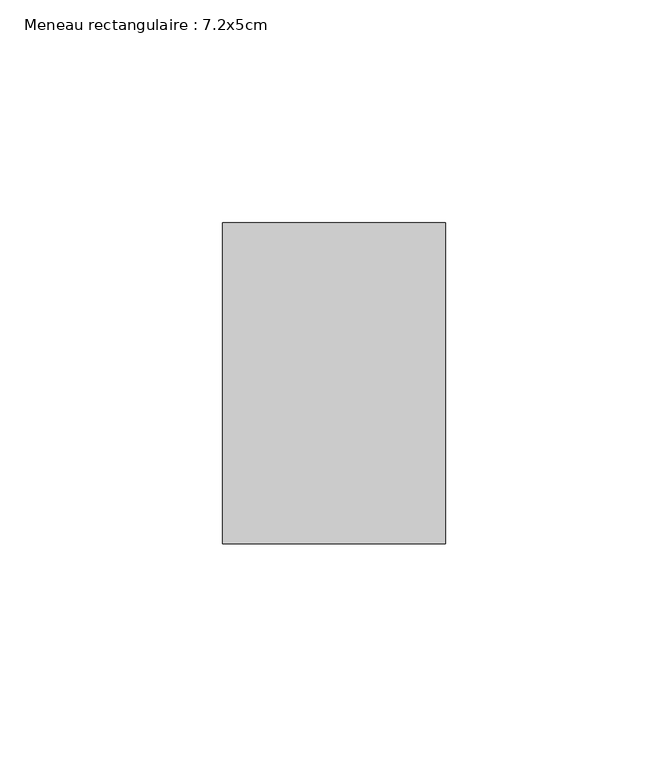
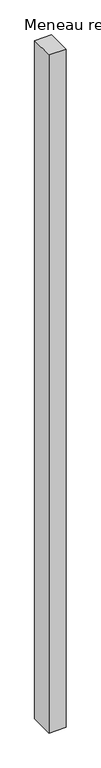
"""IFC4 building model written with IfcOpenShell, lengths in millimetres: member geometry, Meneau rectangulaire : 7.2x5cm."""

from ifc_helpers import new_model, si_unit, frame, origin, place, context, project, spatial, polyline, outline, extrude, source, transform, mapped, element, save


def meneau_rectangulaire_7_2x5cm_9b867c7b(model_context):
    return source(origin(), model_context, "Body", "SweptSolid", [
        extrude(outline(polyline([(25.0, 36.0), (25.0, -36.0), (-25.0, -36.0), (-25.0, 36.0), (25.0, 36.0)])), frame((0.0, 0.0, -2100.0), z_axis=(0.0, 0.0, 1.0), x_axis=(1.0, 0.0, 0.0)), (0.0, 0.0, 1.0), 2100.0),
    ])


if __name__ == "__main__":
    model = new_model("IFC4")
    model_context = context("Model", 3, world=origin())
    ifc_project = project(units=[si_unit("LENGTHUNIT", "METRE", prefix="MILLI")], contexts=[model_context])
    site = spatial("IfcSite", under=ifc_project)
    building = spatial("IfcBuilding", under=site)
    placement = place(None, origin())
    meneau_rectangulaire_7_2x5cm_shape = meneau_rectangulaire_7_2x5cm_9b867c7b(model_context)
    element("IfcMember", 1, ObjectType="Meneau rectangulaire : 7.2x5cm", at=placement, inside=building, context=model_context, shape_type="MappedRepresentation", body=[
        mapped(meneau_rectangulaire_7_2x5cm_shape, transform((0.0, 0.0, 0.0), x_axis=(1.0, 0.0, 0.0), y_axis=(0.0, 1.0, 0.0), z_axis=(0.0, 0.0, 1.0))),
    ])
    save(model, "model.ifc")
